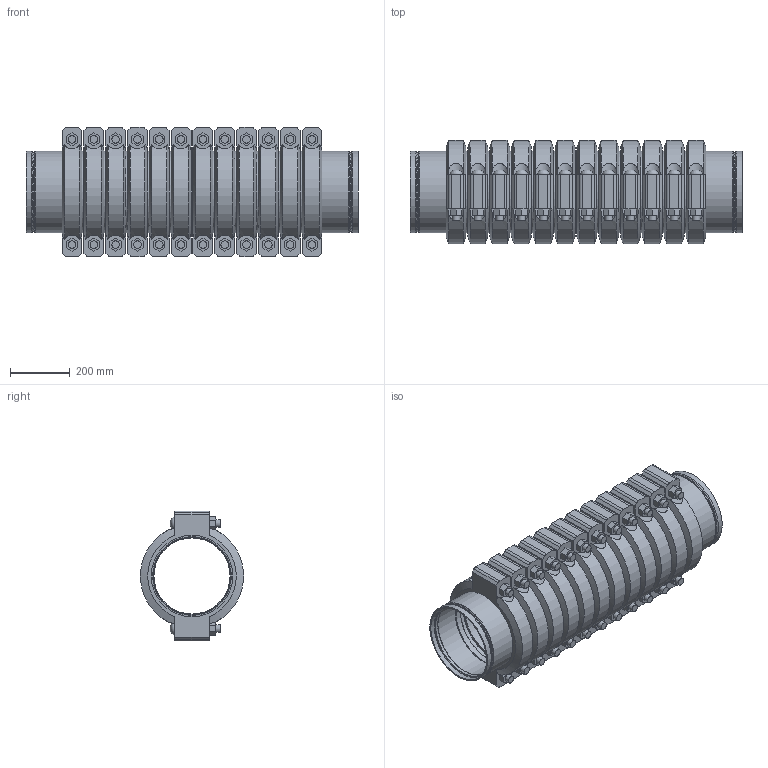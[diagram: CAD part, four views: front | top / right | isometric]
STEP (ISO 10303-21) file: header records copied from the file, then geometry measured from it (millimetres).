
FILE_DESCRIPTION(/* description */ ('VIC STRENGTHIN 100 EXPANSION JOINT 12 COUPLINGS NEUTRAL STYLE E155 (ST1)','CAx-IF Rec.Pracs.---Representation and Presentation of Product Manufacturing Information (PMI)---4.0---2014-10-13'),/* implementation_level */ '2;1');
FILE_NAME(/* name */ 'C:\Users\Vjadhav\AppData\Roaming\Autodesk\ApplicationPlugins\Victaulic.Temp\A29\Victaulic_SS-StrengThin 100_Expansion Joint_Neutral_12 Couplings_Style E155 (ST1)_12 Coup_Neut_10 (250).stp',/* time_stamp */ '2021-07-20T17:42:44+05:00',/* author */ ('kkamble'),/* organization */ ('Victaulic'),/* preprocessor_version */ 'ST-DEVELOPER v17.2',/* originating_system */ 'Autodesk Inventor 2019',/* authorisation */ '');
FILE_SCHEMA (('AP242_MANAGED_MODEL_BASED_3D_ENGINEERING_MIM_LF { 1 0 10303 442 1 1 4 }'));
Length unit declared in the file: inch
Products named in the file (4): E155-10.0; E494G-10.0; Nipple-10.0; 077-10.0
Assembly tree (25 placements, depth 2):
  E155-10.0
    E494G-10.0  x2
    Nipple-10.0  x11
    077-10.0  x12
Bounding box: 1111.25 x 344.9 x 435.1 mm (x, y, z)
Volume: 41809272.8 mm3; surface area: 5443536.7 mm2
Topology: 25 solids, 49 shells, 934 faces, 2300 edges, 1614 vertices
Faces by surface type: plane 512, cylinder 314, cone 52, torus 32, bspline 24
Full cylindrical faces by diameter (mm): 25.4 x48, 27.432 x24, 254.508 x11, 255.626 x2, 258.724 x2, 263.5 x6, 264.16 x12, 265.176 x2, 268.275 x24, 273.05 x63
Entity records: 4185 total; most frequent: CARTESIAN_POINT 860, DIRECTION 715, ORIENTED_EDGE 580, AXIS2_PLACEMENT_3D 310, EDGE_CURVE 290, VERTEX_POINT 209, CIRCLE 175, EDGE_LOOP 135
